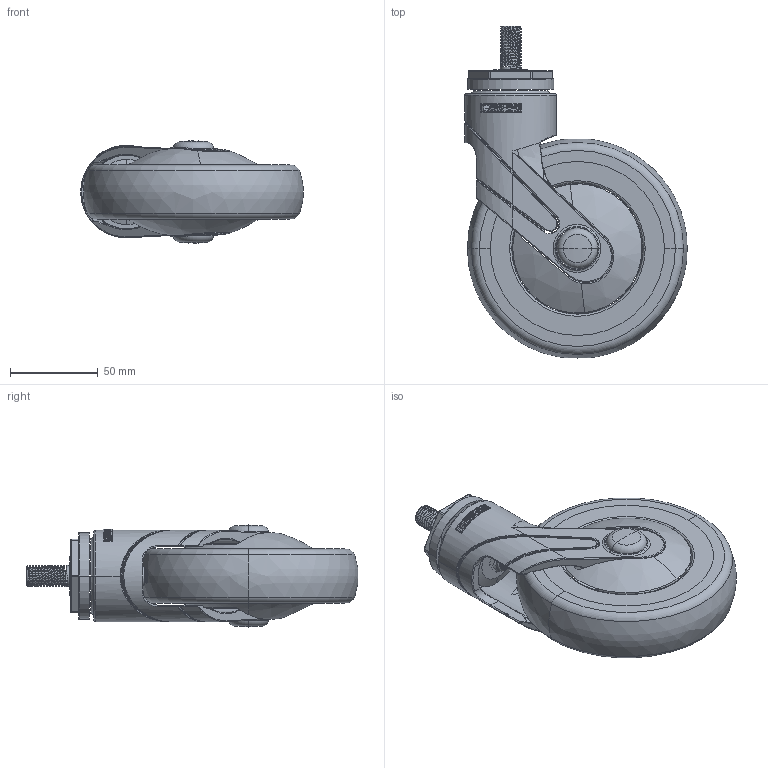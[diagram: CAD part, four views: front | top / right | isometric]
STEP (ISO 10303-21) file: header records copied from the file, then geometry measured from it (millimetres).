
FILE_DESCRIPTION((''),'2;1');
FILE_NAME('PRT0003','2025-08-06T18:48:56',('Administrator'),(''),'CREO PARAMETRIC BY PTC INC, 2022124','CREO PARAMETRIC BY PTC INC, 2022124','');
FILE_SCHEMA(('AUTOMOTIVE_DESIGN { 1 0 10303 214 1 1 1 1 }'));
Length unit declared in the file: millimetre
Products named in the file (1): PRT0003
Bounding box: 126.41 x 188.74 x 58.19 mm (x, y, z)
Surface area: 59322.4 mm2 (no closed solid volume)
Topology: 0 solids, 23 shells, 258 faces, 1033 edges, 766 vertices
Faces by surface type: cylinder 94, bspline 69, torus 35, plane 34, cone 16, sphere 8, extrusion 2
Entity records: 21547 total; most frequent: CARTESIAN_POINT 12199, ORIENTED_EDGE 1488, DIRECTION 1275, EDGE_CURVE 1025, VERTEX_POINT 766, AXIS2_PLACEMENT_3D 509, B_SPLINE_CURVE_WITH_KNOTS 463, CIRCLE 312
